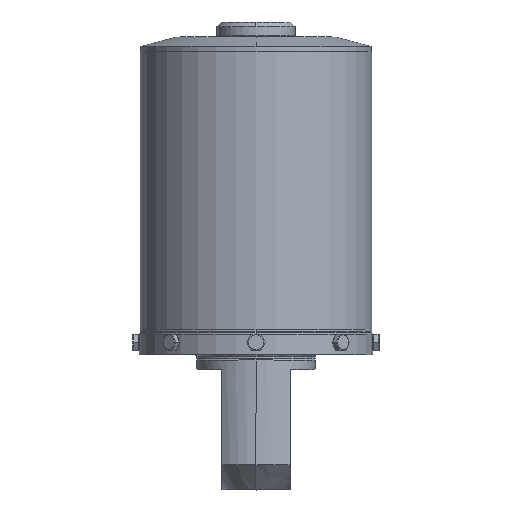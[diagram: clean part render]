
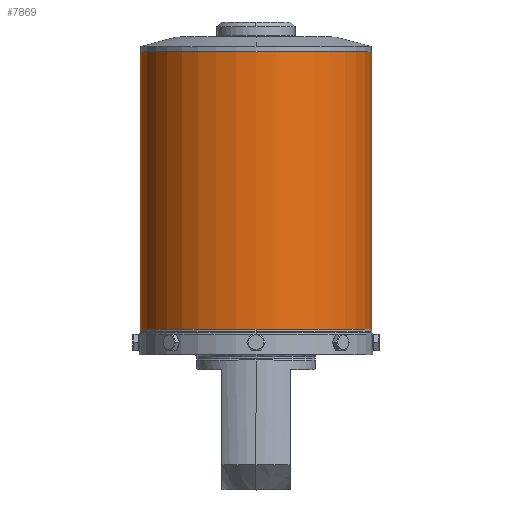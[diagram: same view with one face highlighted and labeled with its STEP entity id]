
A CAD part, top view. The second image highlights one B-rep face of the part: STEP entity #7869.
In plain terms, the highlighted cylindrical face has radius 78.308 mm (diameter 156.616 mm), a partial arc.
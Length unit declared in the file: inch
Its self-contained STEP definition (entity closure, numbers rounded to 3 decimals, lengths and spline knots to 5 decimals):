
#325 = VERTEX_POINT ( 'NONE', #7489 ) ;
#434 = AXIS2_PLACEMENT_3D ( 'NONE', #1416, #1402, #1388 ) ;
#504 = CIRCLE ( 'NONE', #434, 3.083 ) ;
#575 = DIRECTION ( 'NONE',  ( 1., 0., 0. ) ) ;
#762 = DIRECTION ( 'NONE',  ( 0., -1., 0. ) ) ;
#1070 = EDGE_CURVE ( 'NONE', #2095, #2901, #504, .T. ) ;
#1164 = ORIENTED_EDGE ( 'NONE', *, *, #6451, .F. ) ;
#1308 = CARTESIAN_POINT ( 'NONE',  ( 3.083, 11.676, 0. ) ) ;
#1342 = DIRECTION ( 'NONE',  ( 0., -1., 0. ) ) ;
#1368 = ORIENTED_EDGE ( 'NONE', *, *, #1070, .T. ) ;
#1388 = DIRECTION ( 'NONE',  ( 1., 0., 0. ) ) ;
#1402 = DIRECTION ( 'NONE',  ( 0., 1., 0. ) ) ;
#1416 = CARTESIAN_POINT ( 'NONE',  ( 0., 4.27637, 0. ) ) ;
#1419 = LINE ( 'NONE', #4792, #1603 ) ;
#1603 = VECTOR ( 'NONE', #4117, 39.37008 ) ;
#1702 = ORIENTED_EDGE ( 'NONE', *, *, #3955, .T. ) ;
#1839 = CARTESIAN_POINT ( 'NONE',  ( 3.083, 4.27637, 0. ) ) ;
#2015 = CARTESIAN_POINT ( 'NONE',  ( -3.083, 3.606, 0. ) ) ;
#2095 = VERTEX_POINT ( 'NONE', #6582 ) ;
#2751 = CARTESIAN_POINT ( 'NONE',  ( 0., 3.606, 0. ) ) ;
#2846 = CARTESIAN_POINT ( 'NONE',  ( 0., 4.27637, 3.083 ) ) ;
#2901 = VERTEX_POINT ( 'NONE', #2846 ) ;
#2943 = EDGE_LOOP ( 'NONE', ( #1702, #7710, #1368, #5687, #1164 ) ) ;
#2950 = CIRCLE ( 'NONE', #5328, 3.083 ) ;
#3406 = DIRECTION ( 'NONE',  ( 1., 0., 0. ) ) ;
#3646 = VERTEX_POINT ( 'NONE', #1308 ) ;
#3742 = AXIS2_PLACEMENT_3D ( 'NONE', #2751, #762, #3406 ) ;
#3790 = VECTOR ( 'NONE', #1342, 39.37008 ) ;
#3955 = EDGE_CURVE ( 'NONE', #3646, #325, #4872, .T. ) ;
#4117 = DIRECTION ( 'NONE',  ( 0., -1., 0. ) ) ;
#4525 = DIRECTION ( 'NONE',  ( 0., 1., 0. ) ) ;
#4603 = AXIS2_PLACEMENT_3D ( 'NONE', #6184, #8347, #7740 ) ;
#4614 = FACE_OUTER_BOUND ( 'NONE', #2943, .T. ) ;
#4792 = CARTESIAN_POINT ( 'NONE',  ( 3.083, 3.606, 0. ) ) ;
#4872 = CIRCLE ( 'NONE', #4603, 3.083 ) ;
#5328 = AXIS2_PLACEMENT_3D ( 'NONE', #8320, #4525, #575 ) ;
#5509 = CYLINDRICAL_SURFACE ( 'NONE', #3742, 3.083 ) ;
#5530 = VERTEX_POINT ( 'NONE', #1839 ) ;
#5687 = ORIENTED_EDGE ( 'NONE', *, *, #5841, .T. ) ;
#5841 = EDGE_CURVE ( 'NONE', #2901, #5530, #2950, .T. ) ;
#6184 = CARTESIAN_POINT ( 'NONE',  ( 0., 11.676, 0. ) ) ;
#6451 = EDGE_CURVE ( 'NONE', #3646, #5530, #1419, .T. ) ;
#6582 = CARTESIAN_POINT ( 'NONE',  ( -3.083, 4.27637, 0. ) ) ;
#6606 = LINE ( 'NONE', #2015, #3790 ) ;
#7231 = EDGE_CURVE ( 'NONE', #325, #2095, #6606, .T. ) ;
#7489 = CARTESIAN_POINT ( 'NONE',  ( -3.083, 11.676, 0. ) ) ;
#7710 = ORIENTED_EDGE ( 'NONE', *, *, #7231, .T. ) ;
#7740 = DIRECTION ( 'NONE',  ( 1., 0., 0. ) ) ;
#7869 = ADVANCED_FACE ( 'NONE', ( #4614 ), #5509, .T. ) ;
#8320 = CARTESIAN_POINT ( 'NONE',  ( 0., 4.27637, 0. ) ) ;
#8347 = DIRECTION ( 'NONE',  ( 0., -1., 0. ) ) ;
